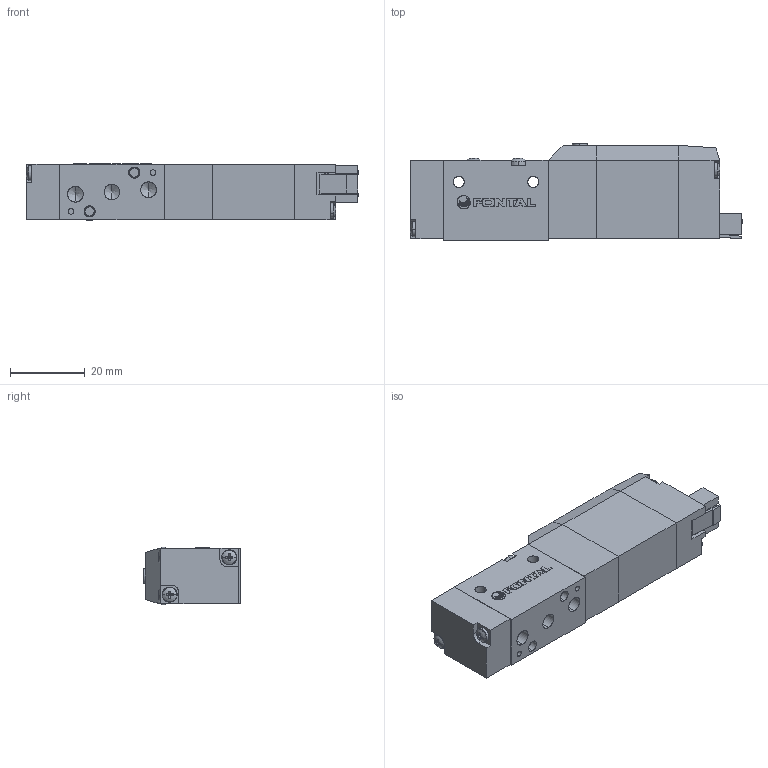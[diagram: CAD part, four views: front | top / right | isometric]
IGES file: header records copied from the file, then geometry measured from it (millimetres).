
Start section: SolidWorks IGES file using analytic representation for surfaces
Global section: file name: D:\Custom\3D繪製\PC\RC5\RCS245#-M5-#-SP-#.IGS,1; native system: 5HSolidWorks 2014; preprocessor: SolidWorks 2014; author: Chieh_Lu; date: 150809.173014; units: millimetre
Bounding box: 89.07 x 26 x 15.4 mm (x, y, z)
Surface area: 13189.6 mm2 (no closed solid volume)
Topology: 0 solids, 0 shells, 520 faces, 4486 edges, 4464 vertices
Faces by surface type: bspline 341, revolution 179
